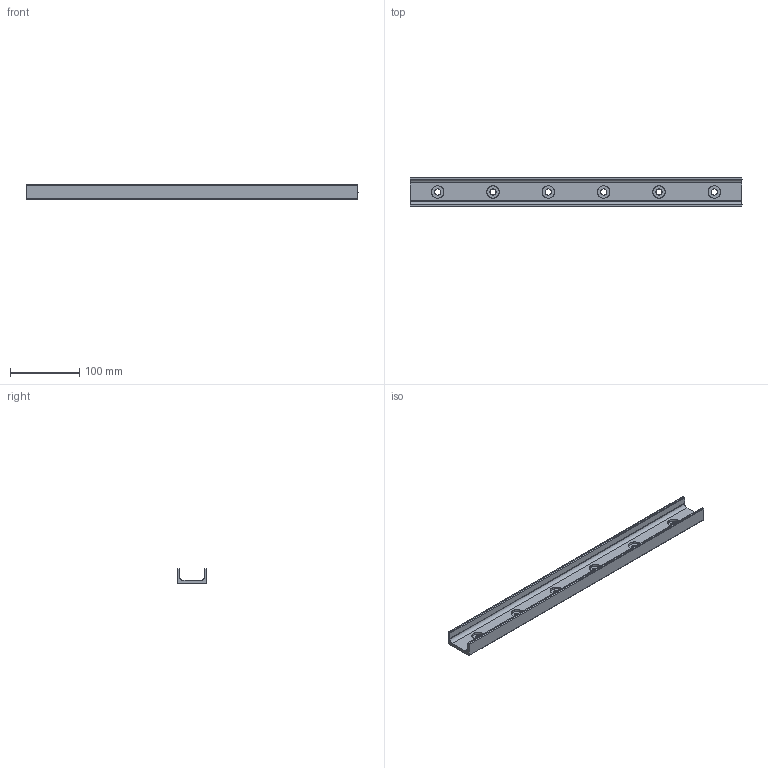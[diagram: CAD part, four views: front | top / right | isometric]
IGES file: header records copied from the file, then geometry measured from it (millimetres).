
Start section: SolidWorks IGES file using analytic representation for surfaces
Global section: file name: C:\Users\IanO\Desktop\43\L1943.ULC43_v2_20180121_IGES\L1943.ULC43-0480.igs; native system: SolidWorks 2017; preprocessor: SolidWorks 2017; author: IanO; date: 190121.084520; units: millimetre
Bounding box: 480 x 43 x 21 mm (x, y, z)
Surface area: 75816.8 mm2 (no closed solid volume)
Topology: 0 solids, 0 shells, 56 faces, 1158 edges, 1158 vertices
Faces by surface type: revolution 37, bspline 19
